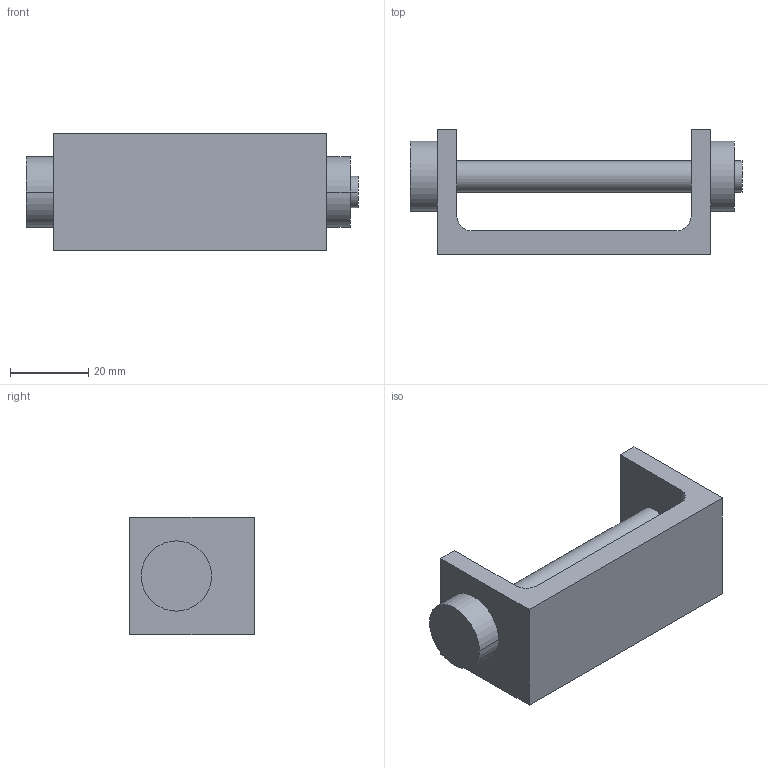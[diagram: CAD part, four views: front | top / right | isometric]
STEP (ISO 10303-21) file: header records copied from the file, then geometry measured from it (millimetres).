
FILE_DESCRIPTION((''),'2;1');
FILE_NAME('PREDEPJATE_SROUBY-UCHYT_ASM','2019-12-17T',('ramik'),(''),'PRO/ENGINEER BY PARAMETRIC TECHNOLOGY CORPORATION, 2012130','PRO/ENGINEER BY PARAMETRIC TECHNOLOGY CORPORATION, 2012130','');
FILE_SCHEMA(('CONFIG_CONTROL_DESIGN'));
Length unit declared in the file: millimetre
Products named in the file (4): UCHYT; SROUB; MATICE; PREDEPJATE_SROUBY-UCHYT_ASM
Assembly tree (3 placements, depth 2):
  PREDEPJATE_SROUBY-UCHYT_ASM
    UCHYT
    SROUB
    MATICE
Bounding box: 85 x 32 x 30 mm (x, y, z)
Volume: 27030.6 mm3; surface area: 12764.6 mm2
Topology: 3 solids, 3 shells, 29 faces, 66 edges, 44 vertices
Faces by surface type: plane 15, cylinder 14
Entity records: 948 total; most frequent: DIRECTION 166, CARTESIAN_POINT 146, ORIENTED_EDGE 132, EDGE_CURVE 66, AXIS2_PLACEMENT_3D 64, VERTEX_POINT 44, VECTOR 38, LINE 38
